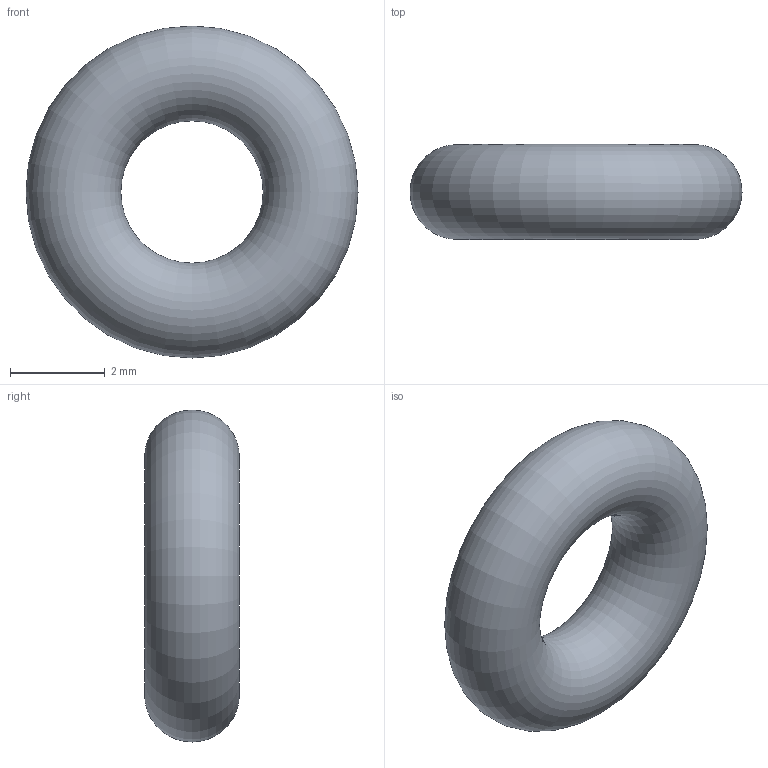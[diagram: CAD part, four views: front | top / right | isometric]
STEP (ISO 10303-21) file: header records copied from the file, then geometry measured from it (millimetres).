
FILE_DESCRIPTION( ( 'STEP AP203' ), '1' );
FILE_NAME( 'C:/Temp/Ganter_Step_05_03_2020/data/3_5/or638/O-Ring OR638-3.00-2.00-70.stp', '2020-03-12T13:44:20', ( 'License CC BY-ND 4.0' ), ( 'CADENAS' ), ' ', 'PARTsolutions', ' ' );
FILE_SCHEMA( ( 'CONFIG_CONTROL_DESIGN' ) );
Length unit declared in the file: millimetre
Products named in the file (1): _O-Ring OR638-3.00-2.00-70
Bounding box: 7 x 2 x 7 mm (x, y, z)
Volume: 49.3 mm3; surface area: 98.7 mm2
Topology: 1 solids, 1 shells, 1 faces, 2 edges, 1 vertices
Faces by surface type: torus 1
Entity records: 62 total; most frequent: CC_DESIGN_PERSON_AND_ORGANIZATION_ASSIGNMENT 5, PERSON_AND_ORGANIZATION_ROLE 4, DIRECTION 4, CARTESIAN_POINT 3, DATE_TIME_ROLE 2, CC_DESIGN_DATE_AND_TIME_ASSIGNMENT 2, AXIS2_PLACEMENT_3D 2, DIMENSIONAL_EXPONENTS 2
